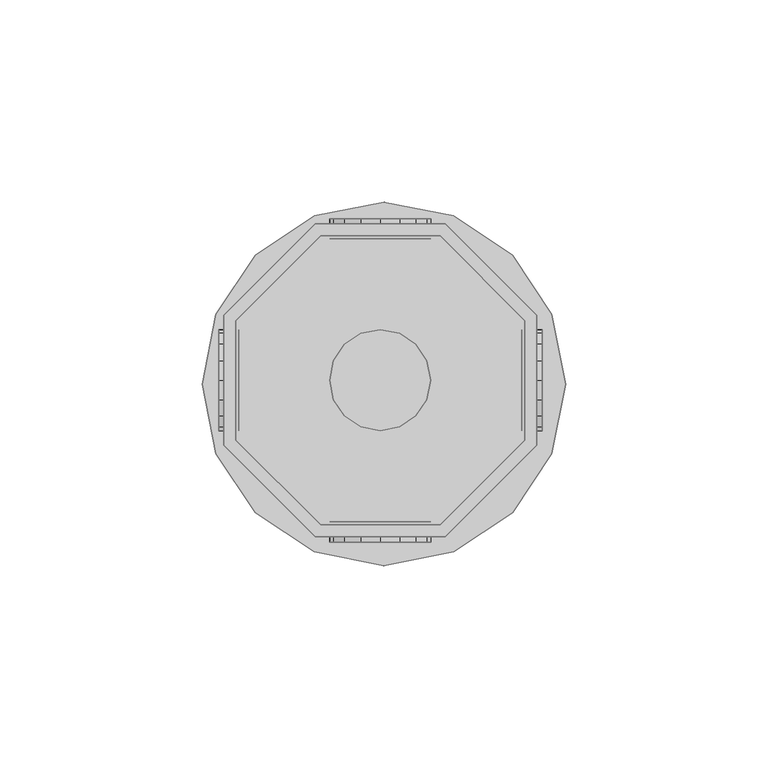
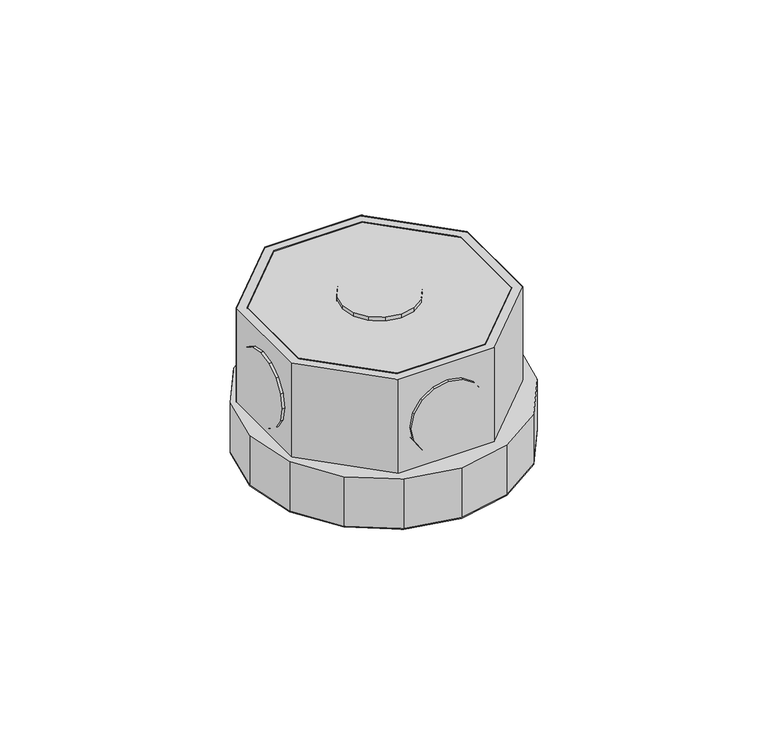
"""IFC4 building model written with IfcOpenShell, lengths in millimetres: light fixture geometry,  212888 :  212888."""

from ifc_helpers import new_model, si_unit, origin, place, context, project, spatial, triangles, source, transform, mapped, element, save


def light_fixture_5b1f7047(model_context):
    return source(origin(), model_context, "Body", "Tessellation", [
        triangles([(24994.9999146, 10957.9997406, 2924.5999741), (24965.3993958, 10957.9997406, 2975.400071), (24965.3993958, 10957.9997406, 2924.5999741), (24994.9999146, 10957.9997406, 2975.400071), (24996.1998413, 10883.4996368, 2924.5999741), (24964.0994751, 10883.4996368, 2975.400071), (24964.0994751, 10883.4996368, 2924.5999741), (24996.1998413, 10883.4996368, 2975.400071), (24944.4006775, 10936.9998596, 2975.400071), (24944.4006775, 10936.9998596, 2924.5999741), (25018.9007813, 10906.2005768, 2924.5999741), (25018.9007813, 10906.2005768, 2975.400071), (24944.4006775, 10907.4005035, 2975.400071), (24944.4006775, 10907.4005035, 2924.5999741), (25018.9007813, 10938.2997803, 2924.5999741), (25018.9007813, 10938.2997803, 2975.400071), (24965.3993958, 10886.4994537, 2975.400071), (24965.3993958, 10886.4994537, 2924.5999741), (24996.1998413, 10960.9995575, 2924.5999741), (24996.1998413, 10960.9995575, 2975.400071), (24994.9999146, 10886.4994537, 2924.5999741), (24994.9999146, 10886.4994537, 2975.400071), (24964.0994751, 10960.9995575, 2975.400071), (24964.0994751, 10960.9995575, 2924.5999741), (25015.9009644, 10907.4005035, 2924.5999741), (25015.9009644, 10907.4005035, 2975.400071), (24941.4008606, 10938.2997803, 2975.400071), (24941.4008606, 10938.2997803, 2924.5999741), (24941.4008606, 10906.2005768, 2975.400071), (25015.9009644, 10936.9998596, 2975.400071), (25015.9009644, 10936.9998596, 2924.5999741), (24941.4008606, 10906.2005768, 2924.5999741), (24944.4006775, 10907.4005035, 2972.3999634), (24965.3993958, 10886.4994537, 2972.3999634), (24994.9999146, 10886.4994537, 2972.3999634), (25015.9009644, 10907.4005035, 2972.3999634), (25015.9009644, 10936.9998596, 2972.3999634), (24994.9999146, 10957.9997406, 2972.3999634), (24965.3993958, 10957.9997406, 2972.3999634), (24944.4006775, 10936.9998596, 2972.3999634), (24941.4008606, 10938.2997803, 2942.4000504), (24964.0994751, 10960.9995575, 2942.4000504), (24996.1998413, 10960.9995575, 2942.4000504), (25018.9007813, 10938.2997803, 2942.4000504), (25018.9007813, 10906.2005768, 2942.4000504), (24996.1998413, 10883.4996368, 2942.4000504), (24964.0994751, 10883.4996368, 2942.4000504), (24941.4008606, 10906.2005768, 2942.4000504), (24963.7994934, 10879.7998627, 2942.4000504), (24939.5009766, 10904.0995422, 2942.4000504), (24949.2003845, 10889.5004333, 2942.4000504), (24936.0988586, 10921.2996552, 2942.4000504), (24939.5009766, 10938.599762, 2942.4000504), (24949.2003845, 10953.2000336, 2942.4000504), (24963.7994934, 10962.8994415, 2942.4000504), (24981.1007629, 10966.3003967, 2942.4000504), (24998.2997131, 10962.8994415, 2942.4000504), (25022.6005554, 10938.599762, 2942.4000504), (25012.9011475, 10953.2000336, 2942.4000504), (24981.1007629, 10876.3000763, 2942.4000504), (24998.2997131, 10879.7998627, 2942.4000504), (25012.9011475, 10889.5004333, 2942.4000504), (25022.6005554, 10904.0995422, 2942.4000504), (25026.1003418, 10921.2996552, 2942.4000504), (24939.5009766, 10904.0995422, 2924.5999741), (24963.7994934, 10879.7998627, 2924.5999741), (24949.2003845, 10889.5004333, 2924.5999741), (24936.0988586, 10921.2996552, 2924.5999741), (24939.5009766, 10938.599762, 2924.5999741), (24949.2003845, 10953.2000336, 2924.5999741), (24963.7994934, 10962.8994415, 2924.5999741), (24981.1007629, 10966.3003967, 2924.5999741), (24998.2997131, 10962.8994415, 2924.5999741), (25022.6005554, 10938.599762, 2924.5999741), (25012.9011475, 10953.2000336, 2924.5999741), (24981.1007629, 10876.3000763, 2924.5999741), (24998.2997131, 10879.7998627, 2924.5999741), (25012.9011475, 10889.5004333, 2924.5999741), (25022.6005554, 10904.0995422, 2924.5999741), (25026.1003418, 10921.2996552, 2924.5999741), (24968.5992004, 10962.1994843, 2952.6000092), (24975.4011108, 10962.1994843, 2945.9001274), (24971.2990356, 10962.1994843, 2948.5999626), (24967.6992554, 10962.1994843, 2957.4000069), (24980.2008179, 10962.1994843, 2944.8998978), (24968.5992004, 10962.1994843, 2962.2000046), (24985.0005249, 10962.1994843, 2945.9001274), (24971.2990356, 10962.1994843, 2966.2000511), (24989.0002808, 10962.1994843, 2948.5999626), (24975.4011108, 10962.1994843, 2968.8998863), (24991.700116, 10962.1994843, 2952.6000092), (24980.2008179, 10962.1994843, 2969.900116), (24992.7000549, 10962.1994843, 2957.4000069), (24985.0005249, 10962.1994843, 2968.8998863), (24991.700116, 10962.1994843, 2962.2000046), (24989.0002808, 10962.1994843, 2966.2000511), (24975.4011108, 10957.1997894, 2945.9001274), (24968.5992004, 10957.1997894, 2952.6000092), (24971.2990356, 10957.1997894, 2948.5999626), (24980.2008179, 10957.1997894, 2944.8998978), (24967.6992554, 10957.1997894, 2957.4000069), (24985.0005249, 10957.1997894, 2945.9001274), (24968.5992004, 10957.1997894, 2962.2000046), (24989.0002808, 10957.1997894, 2948.5999626), (24971.2990356, 10957.1997894, 2966.2000511), (24975.4011108, 10957.1997894, 2968.8998863), (24991.700116, 10957.1997894, 2952.6000092), (24980.2008179, 10957.1997894, 2969.900116), (24992.7000549, 10957.1997894, 2957.4000069), (24985.0005249, 10957.1997894, 2968.8998863), (24991.700116, 10957.1997894, 2962.2000046), (24989.0002808, 10957.1997894, 2966.2000511), (24968.5992004, 10887.2005737, 2952.6000092), (24975.4011108, 10887.2005737, 2945.9001274), (24971.2990356, 10887.2005737, 2948.5999626), (24967.6992554, 10887.2005737, 2957.4000069), (24980.2008179, 10887.2005737, 2944.8998978), (24968.5992004, 10887.2005737, 2962.2000046), (24985.0005249, 10887.2005737, 2945.9001274), (24971.2990356, 10887.2005737, 2966.2000511), (24989.0002808, 10887.2005737, 2948.5999626), (24975.4011108, 10887.2005737, 2968.8998863), (24991.700116, 10887.2005737, 2952.6000092), (24980.2008179, 10887.2005737, 2969.900116), (24992.7000549, 10887.2005737, 2957.4000069), (24985.0005249, 10887.2005737, 2968.8998863), (24991.700116, 10887.2005737, 2962.2000046), (24989.0002808, 10887.2005737, 2966.2000511), (24975.4011108, 10882.1997162, 2945.9001274), (24968.5992004, 10882.1997162, 2952.6000092), (24971.2990356, 10882.1997162, 2948.5999626), (24980.2008179, 10882.1997162, 2944.8998978), (24967.6992554, 10882.1997162, 2957.4000069), (24985.0005249, 10882.1997162, 2945.9001274), (24968.5992004, 10882.1997162, 2962.2000046), (24989.0002808, 10882.1997162, 2948.5999626), (24971.2990356, 10882.1997162, 2966.2000511), (24975.4011108, 10882.1997162, 2968.8998863), (24991.700116, 10882.1997162, 2952.6000092), (24980.2008179, 10882.1997162, 2969.900116), (24992.7000549, 10882.1997162, 2957.4000069), (24985.0005249, 10882.1997162, 2968.8998863), (24991.700116, 10882.1997162, 2962.2000046), (24989.0002808, 10882.1997162, 2966.2000511), (24945.2006287, 10917.3998932, 2945.9001274), (24945.2006287, 10910.7003021, 2952.6000092), (24945.2006287, 10913.4001373, 2948.5999626), (24945.2006287, 10922.1996002, 2944.8998978), (24945.2006287, 10909.7003632, 2957.4000069), (24945.2006287, 10927.00047, 2945.9001274), (24945.2006287, 10910.7003021, 2962.2000046), (24945.2006287, 10931.1002197, 2948.5999626), (24945.2006287, 10913.4001373, 2966.2000511), (24945.2006287, 10917.3998932, 2968.8998863), (24945.2006287, 10933.8000549, 2952.6000092), (24945.2006287, 10922.1996002, 2969.900116), (24945.2006287, 10934.7, 2957.4000069), (24945.2006287, 10927.00047, 2968.8998863), (24945.2006287, 10933.8000549, 2962.2000046), (24945.2006287, 10931.1002197, 2966.2000511), (24940.2009338, 10910.7003021, 2952.6000092), (24940.2009338, 10917.3998932, 2945.9001274), (24940.2009338, 10913.4001373, 2948.5999626), (24940.2009338, 10909.7003632, 2957.4000069), (24940.2009338, 10922.1996002, 2944.8998978), (24940.2009338, 10910.7003021, 2962.2000046), (24940.2009338, 10927.00047, 2945.9001274), (24940.2009338, 10913.4001373, 2966.2000511), (24940.2009338, 10931.1002197, 2948.5999626), (24940.2009338, 10917.3998932, 2968.8998863), (24940.2009338, 10933.8000549, 2952.6000092), (24940.2009338, 10922.1996002, 2969.900116), (24940.2009338, 10934.7, 2957.4000069), (24940.2009338, 10927.00047, 2968.8998863), (24940.2009338, 10933.8000549, 2962.2000046), (24940.2009338, 10931.1002197, 2966.2000511), (25020.2007019, 10917.3998932, 2945.9001274), (25020.2007019, 10910.7003021, 2952.6000092), (25020.2007019, 10913.4001373, 2948.5999626), (25020.2007019, 10922.1996002, 2944.8998978), (25020.2007019, 10909.7003632, 2957.4000069), (25020.2007019, 10927.00047, 2945.9001274), (25020.2007019, 10910.7003021, 2962.2000046), (25020.2007019, 10931.1002197, 2948.5999626), (25020.2007019, 10913.4001373, 2966.2000511), (25020.2007019, 10917.3998932, 2968.8998863), (25020.2007019, 10933.8000549, 2952.6000092), (25020.2007019, 10922.1996002, 2969.900116), (25020.2007019, 10934.7, 2957.4000069), (25020.2007019, 10927.00047, 2968.8998863), (25020.2007019, 10933.8000549, 2962.2000046), (25020.2007019, 10931.1002197, 2966.2000511), (25015.2010071, 10910.7003021, 2952.6000092), (25015.2010071, 10917.3998932, 2945.9001274), (25015.2010071, 10913.4001373, 2948.5999626), (25015.2010071, 10909.7003632, 2957.4000069), (25015.2010071, 10922.1996002, 2944.8998978), (25015.2010071, 10910.7003021, 2962.2000046), (25015.2010071, 10927.00047, 2945.9001274), (25015.2010071, 10913.4001373, 2966.2000511), (25015.2010071, 10931.1002197, 2948.5999626), (25015.2010071, 10917.3998932, 2968.8998863), (25015.2010071, 10933.8000549, 2952.6000092), (25015.2010071, 10922.1996002, 2969.900116), (25015.2010071, 10934.7, 2957.4000069), (25015.2010071, 10927.00047, 2968.8998863), (25015.2010071, 10933.8000549, 2962.2000046), (25015.2010071, 10931.1002197, 2966.2000511), (24975.4011108, 10910.7003021, 2976.9999733), (24968.5992004, 10917.3998932, 2976.9999733), (24971.2990356, 10913.4001373, 2976.9999733), (24967.6992554, 10922.1996002, 2976.9999733), (24980.2008179, 10909.7003632, 2976.9999733), (24968.5992004, 10927.00047, 2976.9999733), (24985.0005249, 10910.7003021, 2976.9999733), (24971.2990356, 10931.1002197, 2976.9999733), (24989.0002808, 10913.4001373, 2976.9999733), (24975.4011108, 10933.8000549, 2976.9999733), (24991.700116, 10917.3998932, 2976.9999733), (24980.2008179, 10934.7, 2976.9999733), (24992.7000549, 10922.1996002, 2976.9999733), (24985.0005249, 10933.8000549, 2976.9999733), (24991.700116, 10927.00047, 2976.9999733), (24989.0002808, 10931.1002197, 2976.9999733), (24968.5992004, 10917.3998932, 2971.9999878), (24975.4011108, 10910.7003021, 2971.9999878), (24971.2990356, 10913.4001373, 2971.9999878), (24967.6992554, 10922.1996002, 2971.9999878), (24980.2008179, 10909.7003632, 2971.9999878), (24968.5992004, 10927.00047, 2971.9999878), (24985.0005249, 10910.7003021, 2971.9999878), (24971.2990356, 10931.1002197, 2971.9999878), (24989.0002808, 10913.4001373, 2971.9999878), (24975.4011108, 10933.8000549, 2971.9999878), (24991.700116, 10917.3998932, 2971.9999878), (24980.2008179, 10934.7, 2971.9999878), (24992.7000549, 10922.1996002, 2971.9999878), (24985.0005249, 10933.8000549, 2971.9999878), (24991.700116, 10927.00047, 2971.9999878), (24989.0002808, 10931.1002197, 2971.9999878)], [[1, 2, 3], [2, 1, 4], [5, 6, 7], [6, 5, 8], [3, 9, 10], [9, 3, 2], [11, 8, 5], [8, 11, 12], [10, 13, 14], [13, 10, 9], [15, 12, 11], [12, 15, 16], [14, 17, 18], [17, 14, 13], [19, 16, 15], [16, 19, 20], [17, 21, 18], [21, 17, 22], [23, 19, 24], [19, 23, 20], [22, 25, 21], [25, 22, 26], [27, 24, 28], [24, 27, 23], [6, 13, 29], [29, 13, 27], [27, 13, 9], [27, 9, 23], [23, 9, 2], [23, 2, 4], [23, 4, 20], [20, 4, 30], [8, 17, 6], [6, 17, 13], [17, 8, 22], [12, 22, 8], [22, 12, 26], [30, 26, 12], [16, 30, 12], [20, 30, 16], [30, 1, 31], [1, 30, 4], [6, 32, 7], [32, 6, 29], [32, 14, 7], [28, 14, 32], [14, 28, 10], [24, 10, 28], [10, 24, 3], [1, 3, 24], [19, 1, 24], [31, 1, 19], [7, 18, 5], [14, 18, 7], [5, 18, 21], [5, 21, 11], [11, 21, 25], [11, 25, 31], [11, 31, 15], [15, 31, 19], [26, 31, 25], [31, 26, 30], [29, 28, 32], [28, 29, 27], [17, 33, 34], [33, 17, 13], [35, 17, 34], [17, 35, 22], [36, 22, 35], [22, 36, 26], [37, 26, 36], [26, 37, 30], [38, 30, 37], [30, 38, 4], [2, 38, 39], [38, 2, 4], [17, 9, 13], [9, 17, 22], [9, 22, 2], [2, 22, 26], [2, 26, 4], [4, 26, 30], [13, 40, 33], [40, 13, 9], [40, 34, 33], [35, 34, 40], [35, 40, 39], [35, 39, 36], [36, 39, 38], [36, 38, 37], [9, 39, 40], [39, 9, 2], [24, 41, 28], [41, 24, 42], [19, 42, 24], [42, 19, 43], [44, 19, 15], [19, 44, 43], [45, 15, 11], [15, 45, 44], [46, 11, 5], [11, 46, 45], [47, 5, 7], [5, 47, 46], [32, 47, 7], [47, 32, 48], [28, 48, 32], [48, 28, 41], [49, 50, 51], [48, 50, 49], [50, 48, 52], [41, 52, 48], [52, 41, 53], [53, 41, 54], [42, 54, 41], [54, 42, 55], [55, 42, 43], [55, 43, 56], [56, 43, 57], [57, 43, 44], [57, 44, 58], [57, 58, 59], [47, 49, 60], [49, 47, 48], [47, 60, 46], [61, 46, 60], [46, 61, 62], [46, 62, 45], [45, 62, 63], [44, 45, 63], [44, 63, 64], [44, 64, 58], [65, 66, 67], [66, 65, 32], [68, 32, 65], [32, 68, 28], [28, 68, 69], [70, 28, 69], [28, 70, 24], [71, 24, 70], [19, 24, 71], [19, 71, 72], [73, 19, 72], [19, 73, 15], [74, 15, 73], [74, 73, 75], [76, 66, 7], [32, 7, 66], [5, 76, 7], [76, 5, 77], [77, 5, 78], [11, 78, 5], [78, 11, 79], [79, 11, 15], [79, 15, 80], [80, 15, 74], [57, 75, 73], [75, 57, 59], [56, 73, 72], [73, 56, 57], [55, 72, 71], [72, 55, 56], [54, 71, 70], [71, 54, 55], [53, 70, 69], [70, 53, 54], [52, 69, 68], [69, 52, 53], [50, 68, 65], [68, 50, 52], [51, 65, 67], [65, 51, 50], [66, 51, 67], [51, 66, 49], [76, 49, 66], [49, 76, 60], [77, 60, 76], [60, 77, 61], [78, 61, 77], [61, 78, 62], [79, 62, 78], [62, 79, 63], [80, 63, 79], [63, 80, 64], [75, 58, 74], [58, 75, 59], [74, 64, 80], [64, 74, 58], [81, 82, 83], [82, 81, 84], [85, 82, 84], [85, 84, 86], [87, 85, 86], [87, 86, 88], [87, 88, 89], [89, 88, 90], [89, 90, 91], [91, 90, 92], [91, 92, 93], [93, 92, 94], [93, 94, 95], [95, 94, 96], [97, 98, 99], [98, 97, 100], [101, 98, 100], [101, 100, 102], [103, 101, 102], [103, 102, 104], [103, 104, 105], [105, 104, 106], [106, 104, 107], [106, 107, 108], [108, 107, 109], [108, 109, 110], [110, 109, 111], [110, 111, 112], [87, 104, 102], [104, 87, 89], [85, 102, 100], [102, 85, 87], [82, 100, 97], [100, 82, 85], [83, 97, 99], [97, 83, 82], [98, 83, 99], [83, 98, 81], [101, 81, 98], [81, 101, 84], [103, 84, 101], [84, 103, 86], [105, 86, 103], [86, 105, 88], [106, 88, 105], [88, 106, 90], [108, 90, 106], [90, 108, 92], [110, 92, 108], [92, 110, 94], [112, 94, 110], [94, 112, 96], [95, 112, 111], [112, 95, 96], [93, 111, 109], [111, 93, 95], [89, 107, 104], [107, 89, 91], [91, 109, 107], [109, 91, 93], [113, 114, 115], [114, 113, 116], [117, 114, 116], [117, 116, 118], [119, 117, 118], [119, 118, 120], [119, 120, 121], [121, 120, 122], [121, 122, 123], [123, 122, 124], [123, 124, 125], [125, 124, 126], [125, 126, 127], [127, 126, 128], [129, 130, 131], [130, 129, 132], [133, 130, 132], [133, 132, 134], [135, 133, 134], [135, 134, 136], [135, 136, 137], [137, 136, 138], [138, 136, 139], [138, 139, 140], [140, 139, 141], [140, 141, 142], [142, 141, 143], [142, 143, 144], [119, 136, 134], [136, 119, 121], [117, 134, 132], [134, 117, 119], [114, 132, 129], [132, 114, 117], [115, 129, 131], [129, 115, 114], [130, 115, 131], [115, 130, 113], [133, 113, 130], [113, 133, 116], [135, 116, 133], [116, 135, 118], [137, 118, 135], [118, 137, 120], [138, 120, 137], [120, 138, 122], [140, 122, 138], [122, 140, 124], [142, 124, 140], [124, 142, 126], [144, 126, 142], [126, 144, 128], [127, 144, 143], [144, 127, 128], [125, 143, 141], [143, 125, 127], [121, 139, 136], [139, 121, 123], [123, 141, 139], [141, 123, 125], [145, 146, 147], [146, 145, 148], [149, 146, 148], [149, 148, 150], [151, 149, 150], [151, 150, 152], [151, 152, 153], [153, 152, 154], [154, 152, 155], [154, 155, 156], [156, 155, 157], [156, 157, 158], [158, 157, 159], [158, 159, 160], [161, 162, 163], [162, 161, 164], [165, 162, 164], [165, 164, 166], [167, 165, 166], [167, 166, 168], [169, 167, 168], [169, 168, 170], [169, 170, 171], [171, 170, 172], [171, 172, 173], [173, 172, 174], [173, 174, 175], [175, 174, 176], [158, 176, 174], [176, 158, 160], [156, 174, 172], [174, 156, 158], [154, 172, 170], [172, 154, 156], [153, 170, 168], [170, 153, 154], [151, 168, 166], [168, 151, 153], [149, 166, 164], [166, 149, 151], [146, 164, 161], [164, 146, 149], [147, 161, 163], [161, 147, 146], [162, 147, 163], [147, 162, 145], [165, 145, 162], [145, 165, 148], [167, 148, 165], [148, 167, 150], [169, 150, 167], [150, 169, 152], [171, 152, 169], [152, 171, 155], [173, 155, 171], [155, 173, 157], [176, 159, 175], [159, 176, 160], [175, 157, 173], [157, 175, 159], [177, 178, 179], [178, 177, 180], [181, 178, 180], [181, 180, 182], [183, 181, 182], [183, 182, 184], [183, 184, 185], [185, 184, 186], [186, 184, 187], [186, 187, 188], [188, 187, 189], [188, 189, 190], [190, 189, 191], [190, 191, 192], [193, 194, 195], [194, 193, 196], [197, 194, 196], [197, 196, 198], [199, 197, 198], [199, 198, 200], [201, 199, 200], [201, 200, 202], [201, 202, 203], [203, 202, 204], [203, 204, 205], [205, 204, 206], [205, 206, 207], [207, 206, 208], [190, 208, 206], [208, 190, 192], [188, 206, 204], [206, 188, 190], [186, 204, 202], [204, 186, 188], [185, 202, 200], [202, 185, 186], [183, 200, 198], [200, 183, 185], [181, 198, 196], [198, 181, 183], [178, 196, 193], [196, 178, 181], [179, 193, 195], [193, 179, 178], [194, 179, 195], [179, 194, 177], [197, 177, 194], [177, 197, 180], [199, 180, 197], [180, 199, 182], [201, 182, 199], [182, 201, 184], [203, 184, 201], [184, 203, 187], [205, 187, 203], [187, 205, 189], [208, 191, 207], [191, 208, 192], [207, 189, 205], [189, 207, 191], [209, 210, 211], [212, 210, 209], [212, 209, 213], [214, 212, 213], [214, 213, 215], [216, 214, 215], [216, 215, 217], [216, 217, 218], [218, 217, 219], [218, 219, 220], [220, 219, 221], [220, 221, 222], [222, 221, 223], [222, 223, 224], [225, 226, 227], [226, 225, 228], [229, 226, 228], [229, 228, 230], [231, 229, 230], [231, 230, 232], [231, 232, 233], [233, 232, 234], [233, 234, 235], [235, 234, 236], [235, 236, 237], [237, 236, 238], [237, 238, 239], [239, 238, 240], [222, 240, 238], [240, 222, 224], [220, 238, 236], [238, 220, 222], [218, 236, 234], [236, 218, 220], [216, 234, 232], [234, 216, 218], [214, 232, 230], [232, 214, 216], [212, 230, 228], [230, 212, 214], [210, 228, 225], [228, 210, 212], [211, 225, 227], [225, 211, 210], [226, 211, 227], [211, 226, 209], [229, 209, 226], [209, 229, 213], [231, 213, 229], [213, 231, 215], [233, 215, 231], [215, 233, 217], [235, 217, 233], [217, 235, 219], [237, 219, 235], [219, 237, 221], [240, 223, 239], [223, 240, 224], [239, 221, 237], [221, 239, 223]], closed=False),
    ])


if __name__ == "__main__":
    model = new_model("IFC4")
    model_context = context("Model", 3, world=origin())
    ifc_project = project(units=[si_unit("LENGTHUNIT", "METRE", prefix="MILLI")], contexts=[model_context])
    site = spatial("IfcSite", under=ifc_project)
    building = spatial("IfcBuilding", under=site)
    placement = place(None, origin())
    light_fixture_shape = light_fixture_5b1f7047(model_context)
    element("IfcLightFixture", 1, ObjectType=" 212888 :  212888", at=placement, inside=building, context=model_context, shape_type="MappedRepresentation", body=[
        mapped(light_fixture_shape, transform((0.0, 0.0, 0.0), x_axis=(1.0, 0.0, 0.0), y_axis=(0.0, 1.0, 0.0), z_axis=(0.0, 0.0, 1.0))),
    ])
    save(model, "model.ifc")
